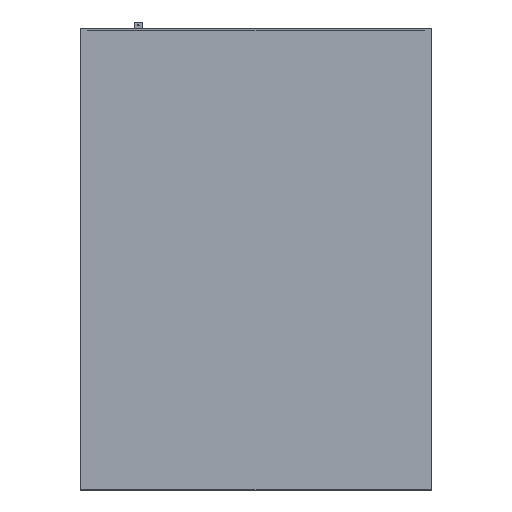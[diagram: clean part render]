
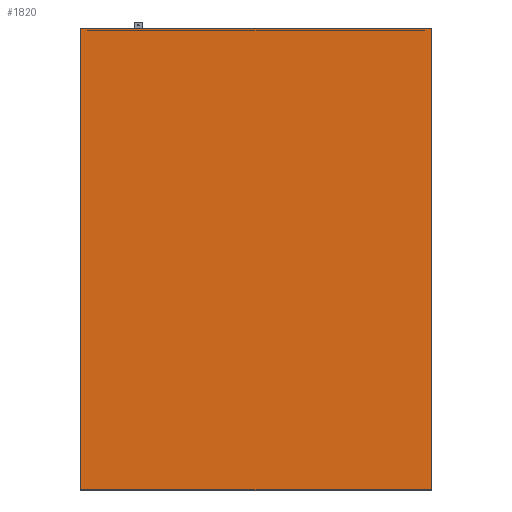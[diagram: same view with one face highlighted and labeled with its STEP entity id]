
A CAD part, left-side view. The second image highlights one B-rep face of the part: STEP entity #1820.
In plain terms, the highlighted planar face has unit normal (-1, 0, 0).
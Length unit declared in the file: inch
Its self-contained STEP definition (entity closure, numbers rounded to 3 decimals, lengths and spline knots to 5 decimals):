
#326=FACE_OUTER_BOUND('',#426,.T.);
#426=EDGE_LOOP('',(#1312,#1313,#1314,#1315));
#532=LINE('',#2631,#739);
#536=LINE('',#2638,#743);
#537=LINE('',#2641,#744);
#538=LINE('',#2642,#745);
#739=VECTOR('',#2177,0.3937);
#743=VECTOR('',#2183,0.3937);
#744=VECTOR('',#2186,0.3937);
#745=VECTOR('',#2187,0.3937);
#944=VERTEX_POINT('',#2628);
#945=VERTEX_POINT('',#2630);
#947=VERTEX_POINT('',#2636);
#948=VERTEX_POINT('',#2640);
#1088=EDGE_CURVE('',#944,#945,#532,.T.);
#1092=EDGE_CURVE('',#947,#944,#536,.T.);
#1093=EDGE_CURVE('',#947,#948,#537,.T.);
#1094=EDGE_CURVE('',#948,#945,#538,.T.);
#1312=ORIENTED_EDGE('',*,*,#1093,.T.);
#1313=ORIENTED_EDGE('',*,*,#1094,.T.);
#1314=ORIENTED_EDGE('',*,*,#1088,.F.);
#1315=ORIENTED_EDGE('',*,*,#1092,.F.);
#1726=PLANE('',#2043);
#1820=ADVANCED_FACE('',(#326),#1726,.T.);
#2043=AXIS2_PLACEMENT_3D('',#2639,#2184,#2185);
#2177=DIRECTION('',(0.,-1.,0.));
#2183=DIRECTION('',(0.,0.,1.));
#2184=DIRECTION('center_axis',(-1.,0.,0.));
#2185=DIRECTION('ref_axis',(0.,-1.,0.));
#2186=DIRECTION('',(0.,-1.,0.));
#2187=DIRECTION('',(0.,0.,1.));
#2628=CARTESIAN_POINT('',(0.,19.,25.));
#2630=CARTESIAN_POINT('',(0.,0.,25.));
#2631=CARTESIAN_POINT('',(0.,19.,25.));
#2636=CARTESIAN_POINT('',(0.,19.,0.));
#2638=CARTESIAN_POINT('',(0.,19.,0.));
#2639=CARTESIAN_POINT('Origin',(0.,19.,0.));
#2640=CARTESIAN_POINT('',(0.,0.,0.));
#2641=CARTESIAN_POINT('',(0.,19.,0.));
#2642=CARTESIAN_POINT('',(0.,0.,0.));
